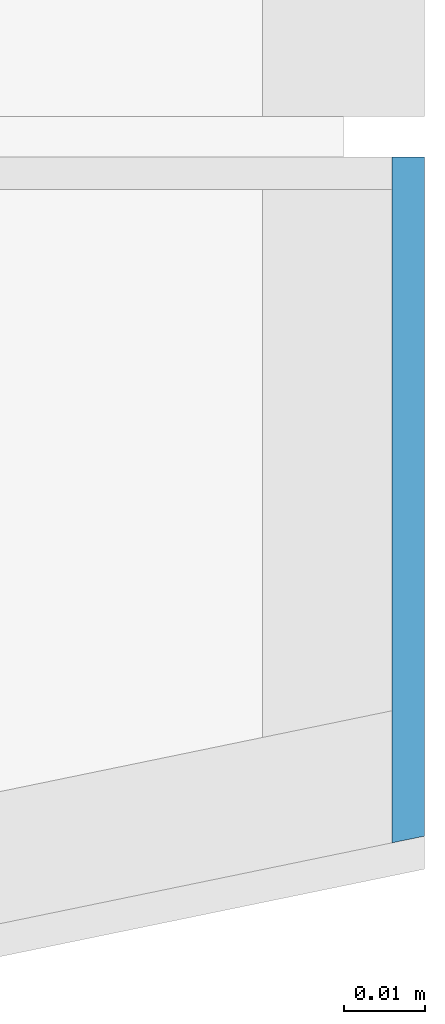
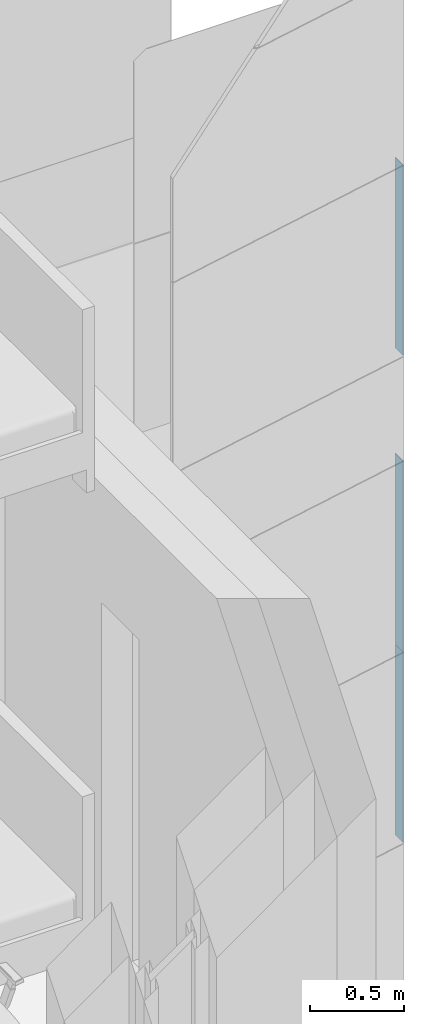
# One storey, part 14 of 125: 3 building element parts, 1 element without a shape of its own.
"""IFC2X3 building model written with IfcOpenShell, lengths in millimetres."""

from ifc_helpers import new_model, entity, si_unit, converted_unit, direction, frame, origin, place, context, subcontext, project, spatial, polyline, outline, extrude, material, type_object, element, aggregate, save


model = new_model("IFC2X3")

# Units and contexts
model_context = context("Model", 3, precision=0.01, world=origin(), true_north=direction((6.123233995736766e-17, 1.0)))
plan_context = context("Plan", 3, precision=0.01, world=origin(), true_north=direction((6.123233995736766e-17, 1.0)))
body_context = subcontext(model_context, "Body", "Model", "MODEL_VIEW")
ifc_project = project(units=[si_unit("LENGTHUNIT", "METRE", prefix="MILLI"), converted_unit("PLANEANGLEUNIT", "DEGREE", entity("IfcPlaneAngleMeasure", 0.017453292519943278), si_unit("PLANEANGLEUNIT", "RADIAN"), dimensions=[0, 0, 0, 0, 0, 0, 0]), si_unit("AREAUNIT", "SQUARE_METRE")], contexts=[model_context, plan_context])

# Site, building, storey
site_placement = place(None, origin())
site = spatial("IfcSite", under=ifc_project, at=site_placement, Name="Default", CompositionType="ELEMENT")
building_placement = place(site_placement, origin())
building = spatial("IfcBuilding", under=site, at=building_placement, CompositionType="ELEMENT")
storey_placement = place(building_placement, frame((0.0, 0.0, 3125.0)))
storey = spatial("IfcBuildingStorey", under=building, at=storey_placement, Name="2K", CompositionType="ELEMENT", Elevation=3125.0)

# Wall, building element parts
wall_type = type_object("IfcWallType", Name="Basic Wall:VS-komposiit", PredefinedType="STANDARD")
wall_placement = place(storey_placement, frame((18942.0, 2895.2108323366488, -1010.0), z_axis=(0.0, 0.0, 1.0), x_axis=(0.0, 1.0, 0.0)))
wall = element("IfcWall", 1, at=wall_placement, inside=storey, type_object=wall_type, Name="Basic Wall:VS-komposiit", ObjectType="Basic Wall:VS-komposiit")
ifc_material = material(Name="_K. Välisviimistlus. Alumiinium-komposiitplaat")
building_element_part_1_placement = place(wall_placement, origin())
building_element_part_1 = element("IfcBuildingElementPart", 2, at=building_element_part_1_placement, material=ifc_material, Name="Part", context=body_context, shape_type="SweptSolid", body=[
    extrude(outline(polyline([(-42.20013519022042, -2.0), (42.61260185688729, -2.0), (41.78766852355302, 2.0), (-42.20013519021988, 2.0), (-42.20013519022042, -2.0)])), frame((29.57562070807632, -8.0, 927.4999999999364), z_axis=(0.0, 0.0, 1.0), x_axis=(-1.0, 0.0, 0.0)), (0.0, 0.0, 1.0), 1240.0000000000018),
])
building_element_part_2_placement = place(wall_placement, origin())
building_element_part_2 = element("IfcBuildingElementPart", 3, at=building_element_part_2_placement, material=ifc_material, Name="Part", context=body_context, shape_type="SweptSolid", body=[
    extrude(outline(polyline([(-42.20013519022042, -2.0), (42.61260185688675, -2.0), (41.787668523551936, 2.0), (-42.20013519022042, 2.0), (-42.20013519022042, -2.0)])), frame((29.57562070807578, -8.0, 2172.4999999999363), z_axis=(0.0, 0.0, 1.0), x_axis=(-1.0, 0.0, 0.0)), (0.0, 0.0, 1.0), 1240.0000000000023),
])
building_element_part_3_placement = place(wall_placement, origin())
building_element_part_3 = element("IfcBuildingElementPart", 4, at=building_element_part_3_placement, material=ifc_material, Name="Part", context=body_context, shape_type="SweptSolid", body=[
    extrude(outline(polyline([(-42.20013519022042, -2.0), (42.61260185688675, -2.0), (41.787668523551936, 2.0), (-42.20013519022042, 2.0), (-42.20013519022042, -2.0)])), frame((29.57562070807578, -8.0, 4097.499999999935), z_axis=(0.0, 0.0, 1.0), x_axis=(-1.0, 0.0, 0.0)), (0.0, 0.0, 1.0), 1240.0000000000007),
])
aggregate(wall, [building_element_part_1, building_element_part_2, building_element_part_3])

save(model, "model.ifc")
